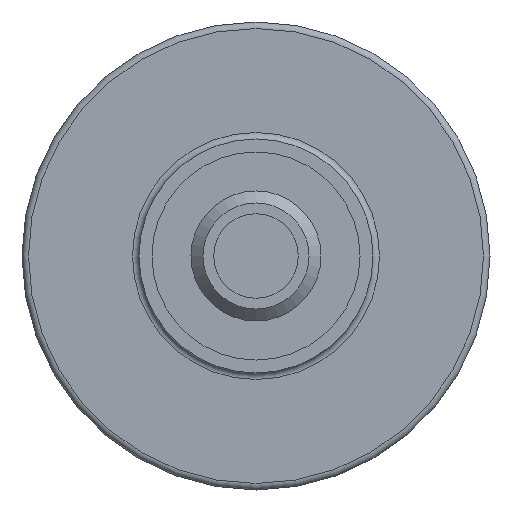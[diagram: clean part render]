
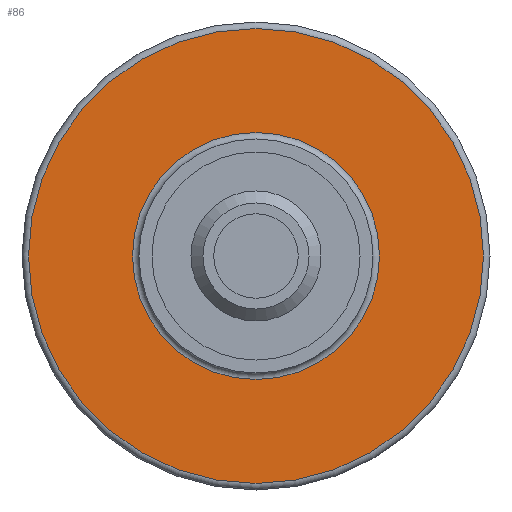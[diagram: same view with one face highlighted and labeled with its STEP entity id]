
A CAD part, front view. The second image highlights one B-rep face of the part: STEP entity #86.
In plain terms, the highlighted planar face has unit normal (0, -1, 0).
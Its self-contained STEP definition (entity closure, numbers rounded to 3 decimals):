
#86 = ADVANCED_FACE( '', ( #126, #127 ), #128, .F. );
#126 = FACE_BOUND( '', #181, .T. );
#127 = FACE_OUTER_BOUND( '', #182, .T. );
#128 = PLANE( '', #183 );
#181 = EDGE_LOOP( '', ( #258 ) );
#182 = EDGE_LOOP( '', ( #259 ) );
#183 = AXIS2_PLACEMENT_3D( '', #260, #261, #262 );
#258 = ORIENTED_EDGE( '', *, *, #309, .F. );
#259 = ORIENTED_EDGE( '', *, *, #308, .T. );
#260 = CARTESIAN_POINT( '', ( 17.5, 10., 0. ) );
#261 = DIRECTION( '', ( 0., 1., 0. ) );
#262 = DIRECTION( '', ( 0., 0., 1. ) );
#308 = EDGE_CURVE( '', #336, #336, #337, .T. );
#309 = EDGE_CURVE( '', #338, #338, #339, .T. );
#336 = VERTEX_POINT( '', #372 );
#337 = CIRCLE( '', #373, 17.5 );
#338 = VERTEX_POINT( '', #374 );
#339 = CIRCLE( '', #375, 9.5 );
#372 = CARTESIAN_POINT( '', ( 0., 10., -17.5 ) );
#373 = AXIS2_PLACEMENT_3D( '', #418, #419, #420 );
#374 = CARTESIAN_POINT( '', ( 0., 10., -9.5 ) );
#375 = AXIS2_PLACEMENT_3D( '', #421, #422, #423 );
#418 = CARTESIAN_POINT( '', ( 0., 10., 0. ) );
#419 = DIRECTION( '', ( 0., -1., 0. ) );
#420 = DIRECTION( '', ( 0., 0., -1. ) );
#421 = CARTESIAN_POINT( '', ( 0., 10., 0. ) );
#422 = DIRECTION( '', ( 0., -1., 0. ) );
#423 = DIRECTION( '', ( 0., 0., -1. ) );
